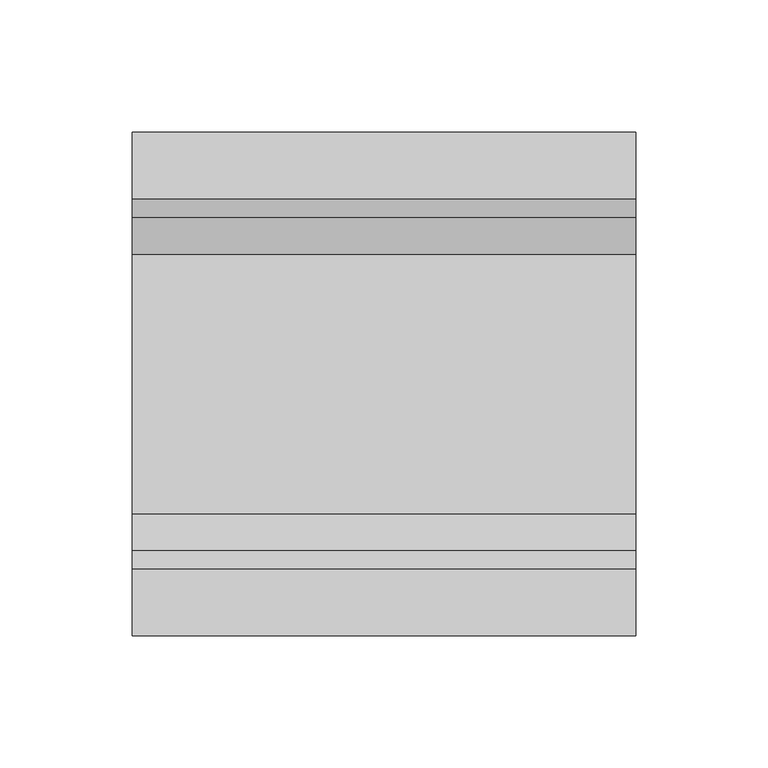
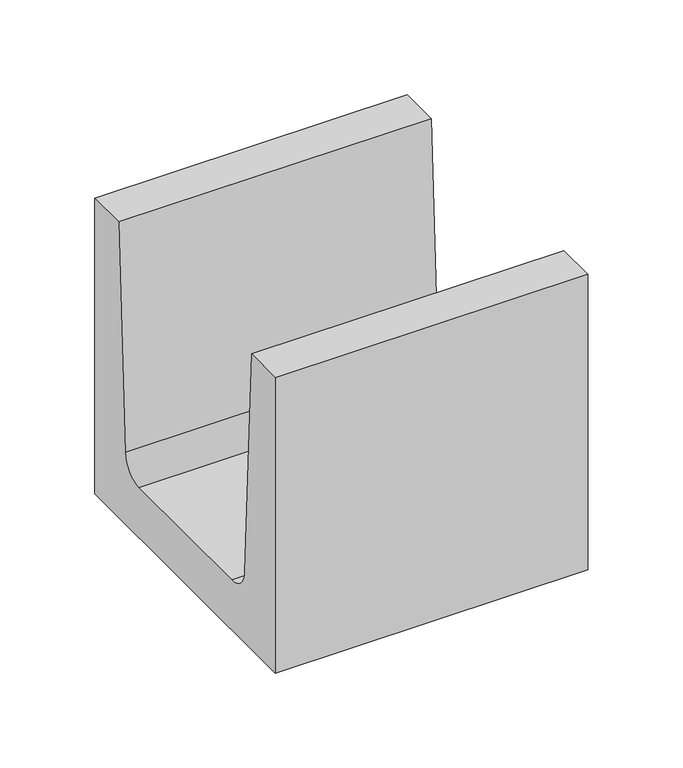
"""IFC4 building model written with IfcOpenShell, lengths in millimetres: proxy geometry, Bloco de Concreto - Meia Canaleta : Família 20 x 40 - Classe A."""

from ifc_helpers import new_model, si_unit, point, frame, frame_2d, origin, place, context, project, spatial, polyline, circle_curve, trimmed, segment, composite_curve, outline, extrude, source, transform, mapped, element, save


def generic_models_c88a230f(model_context):
    return source(origin(), model_context, "Body", "SweptSolid", [
        extrude(outline(composite_curve([segment(polyline([(-95.0, 0.0), (-95.0, 190.0), (-70.0, 190.0), (-63.0, 45.9722544)]), True, "CONTINUOUS"), segment(trimmed(circle_curve(frame_2d((-49.0277456, 45.9722544)), 13.9722544), [point((-63.0, 45.9722544))], [point((-49.0277456, 32.0))], True, "CARTESIAN"), True, "CONTINUOUS"), segment(polyline([(-49.0277456, 32.0), (48.8533332, 32.0)]), True, "CONTINUOUS"), segment(trimmed(circle_curve(frame_2d((48.8533332, 46.1466668)), 14.1466668), [point((48.8533332, 32.0))], [point((63.0, 46.1466668))], True, "CARTESIAN"), True, "CONTINUOUS"), segment(polyline([(63.0, 46.1466668), (70.0, 190.0), (95.0, 190.0), (95.0, 0.0), (-95.0, 0.0)]), True, "CONTINUOUS")], self_intersect=False)), frame((-95.0, 0.0, 0.0), z_axis=(1.0, 0.0, 0.0), x_axis=(0.0, 1.0, 0.0)), (0.0, 0.0, 1.0), 190.0),
    ])


if __name__ == "__main__":
    model = new_model("IFC4")
    model_context = context("Model", 3, world=origin())
    ifc_project = project(units=[si_unit("LENGTHUNIT", "METRE", prefix="MILLI")], contexts=[model_context])
    site = spatial("IfcSite", under=ifc_project)
    building = spatial("IfcBuilding", under=site)
    placement = place(None, origin())
    generic_models_shape = generic_models_c88a230f(model_context)
    element("IfcBuildingElementProxy", 1, Name="Bloco de Concreto - Meia Canaleta : Família 20 x 40 - Classe A", ObjectType="Bloco de Concreto - Meia Canaleta : Família 20 x 40 - Classe A", at=placement, inside=building, context=model_context, shape_type="MappedRepresentation", body=[
        mapped(generic_models_shape, transform((0.0, 0.0, 0.0), x_axis=(1.0, 0.0, 0.0), y_axis=(0.0, 1.0, 0.0), z_axis=(0.0, 0.0, 1.0))),
    ])
    save(model, "model.ifc")
